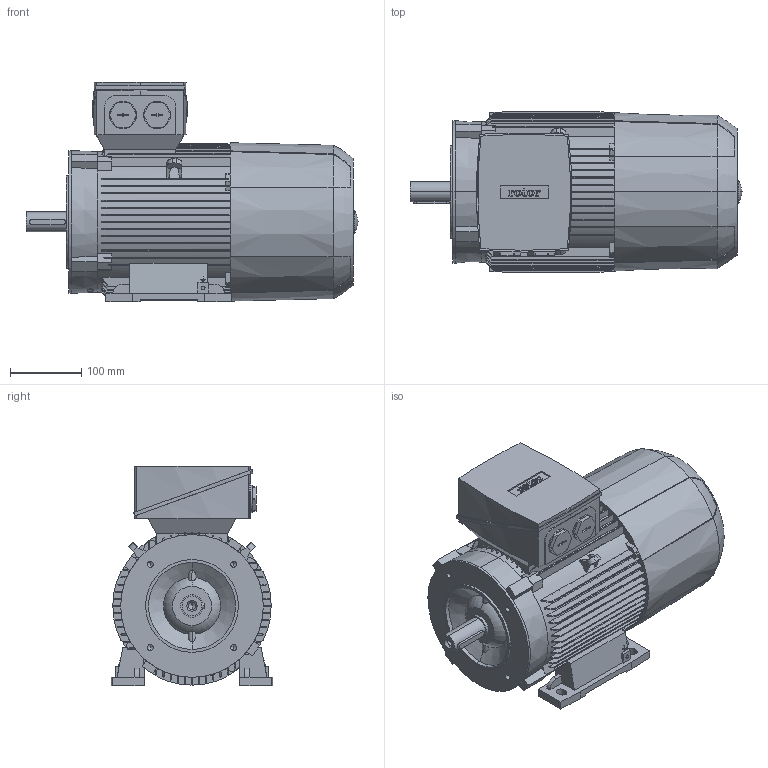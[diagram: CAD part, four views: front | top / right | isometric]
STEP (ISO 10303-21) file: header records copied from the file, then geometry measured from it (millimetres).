
FILE_DESCRIPTION (( 'STEP AP214' ), '1' );
FILE_NAME ('6RN112M04E36V IM2141-B.STEP', '2021-09-22T13:20:04', ( '' ), ( '' ), 'SwSTEP 2.0', 'SolidWorks 2018', '' );
FILE_SCHEMA (( 'AUTOMOTIVE_DESIGN' ));
Length unit declared in the file: millimetre
Products named in the file (1): 6RN112M04E36V IM2141-B
Bounding box: 465.5 x 226 x 308 mm (x, y, z)
Volume: 15601468.3 mm3; surface area: 648940.5 mm2
Topology: 1 solids, 1 shells, 910 faces, 2577 edges, 1694 vertices
Faces by surface type: plane 501, cylinder 209, torus 122, bspline 48, cone 30
Entity records: 37065 total; most frequent: CARTESIAN_POINT 14255, ORIENTED_EDGE 5130, DIRECTION 4157, EDGE_CURVE 2565, VERTEX_POINT 1694, LINE 1489, VECTOR 1489, AXIS2_PLACEMENT_3D 1334
